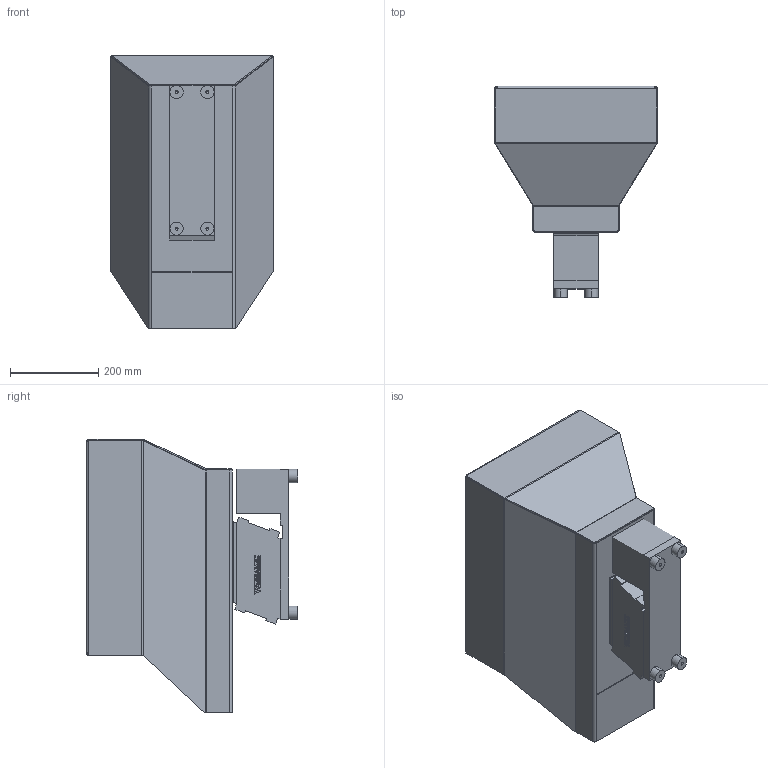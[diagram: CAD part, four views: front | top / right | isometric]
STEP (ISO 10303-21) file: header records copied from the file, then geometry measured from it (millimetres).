
FILE_DESCRIPTION (( 'STEP AP214' ), '1' );
FILE_NAME ('PD40_WIBRAMET.STEP', '2020-10-27T12:46:43', ( '' ), ( '' ), 'SwSTEP 2.0', 'SolidWorks 2017', '' );
FILE_SCHEMA (( 'AUTOMOTIVE_DESIGN' ));
Length unit declared in the file: millimetre
Products named in the file (12): hex nut style 2 gradeab_iso_ISO - 4033 - M5 - W - N; PD41.02_B; socket countersunk head screw_iso_ISO 10642 - M8 x 20 - 20N; plain washer normal grade a_iso_Washer ISO 7089 - 5; PD40_WIBRAMET; PD41.07; PD41.04; PD41.01_B; socket button head screw_iso_ISO 7380 - M5 x 16 - 16N; PL3_WIBRAMET; PD41.06_zas³onka; PD41.03_B
Assembly tree (23 placements, depth 2):
  PD40_WIBRAMET
    PD41.01_B
    PD41.02_B
    PD41.03_B
    PD41.04
    PD41.06_zas³onka
    PD41.07
    PL3_WIBRAMET
    socket countersunk head screw_iso_ISO 10642 - M8 x 20 - 20N  x4
    plain washer normal grade a_iso_Washer ISO 7089 - 5  x6
    socket button head screw_iso_ISO 7380 - M5 x 16 - 16N  x3
    hex nut style 2 gradeab_iso_ISO - 4033 - M5 - W - N  x3
Bounding box: 370 x 480.06 x 621 mm (x, y, z)
Volume: 6020078.4 mm3; surface area: 1699770.1 mm2
Topology: 28 solids, 28 shells, 1357 faces, 3519 edges, 2247 vertices
Faces by surface type: plane 760, bspline 311, cylinder 176, cone 90, torus 14, sphere 6
Entity records: 47077 total; most frequent: CARTESIAN_POINT 19435, ORIENTED_EDGE 6046, DIRECTION 4391, EDGE_CURVE 3023, LINE 2079, VECTOR 2079, VERTEX_POINT 1972, EDGE_LOOP 1233
